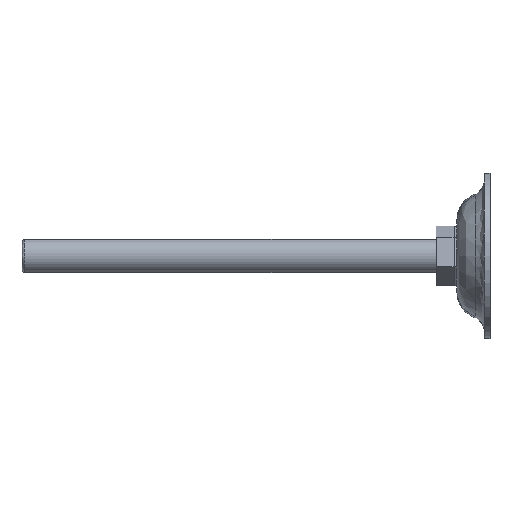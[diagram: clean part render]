
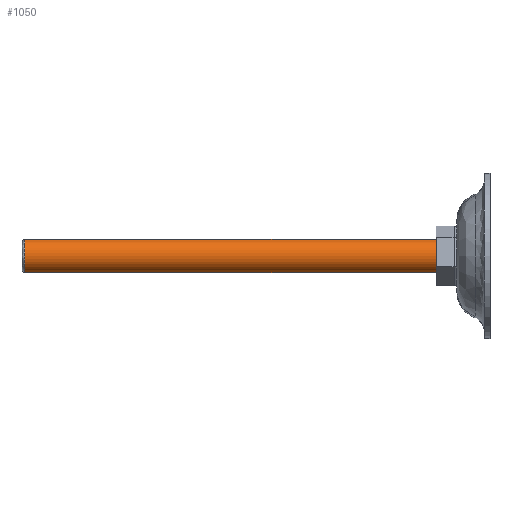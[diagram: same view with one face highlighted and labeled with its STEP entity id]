
A CAD part, left-side view. The second image highlights one B-rep face of the part: STEP entity #1050.
In plain terms, the highlighted cylindrical face has radius 6 mm (diameter 12 mm), a partial arc.
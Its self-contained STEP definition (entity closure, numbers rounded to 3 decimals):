
#15 = DIRECTION ( 'NONE',  ( 0., -1., 0. ) ) ;
#70 = CYLINDRICAL_SURFACE ( 'NONE', #1697, 6. ) ;
#99 = ORIENTED_EDGE ( 'NONE', *, *, #1617, .T. ) ;
#125 = VERTEX_POINT ( 'NONE', #380 ) ;
#126 = EDGE_CURVE ( 'NONE', #1104, #125, #1797, .T. ) ;
#204 = AXIS2_PLACEMENT_3D ( 'NONE', #1819, #1722, #1848 ) ;
#214 = ORIENTED_EDGE ( 'NONE', *, *, #229, .F. ) ;
#229 = EDGE_CURVE ( 'NONE', #2045, #1462, #404, .T. ) ;
#336 = CARTESIAN_POINT ( 'NONE',  ( -36.124, 164.085, -6. ) ) ;
#380 = CARTESIAN_POINT ( 'NONE',  ( -36.124, 14.085, -6. ) ) ;
#404 = LINE ( 'NONE', #1313, #1258 ) ;
#455 = DIRECTION ( 'NONE',  ( 0., -1., 0. ) ) ;
#570 = AXIS2_PLACEMENT_3D ( 'NONE', #1805, #2123, #2130 ) ;
#830 = DIRECTION ( 'NONE',  ( 0., 0., -1. ) ) ;
#891 = DIRECTION ( 'NONE',  ( 0., -1., 0. ) ) ;
#931 = CARTESIAN_POINT ( 'NONE',  ( -36.124, 163.085, -6. ) ) ;
#969 = FACE_OUTER_BOUND ( 'NONE', #1278, .T. ) ;
#1050 = ADVANCED_FACE ( 'NONE', ( #969 ), #70, .T. ) ;
#1104 = VERTEX_POINT ( 'NONE', #931 ) ;
#1155 = CIRCLE ( 'NONE', #570, 6. ) ;
#1258 = VECTOR ( 'NONE', #15, 1000. ) ;
#1278 = EDGE_LOOP ( 'NONE', ( #214, #1916, #1451, #99 ) ) ;
#1313 = CARTESIAN_POINT ( 'NONE',  ( -36.124, 164.085, 6. ) ) ;
#1369 = VECTOR ( 'NONE', #891, 1000. ) ;
#1437 = CARTESIAN_POINT ( 'NONE',  ( -36.124, 14.085, 6. ) ) ;
#1451 = ORIENTED_EDGE ( 'NONE', *, *, #126, .T. ) ;
#1462 = VERTEX_POINT ( 'NONE', #1437 ) ;
#1528 = CIRCLE ( 'NONE', #204, 6. ) ;
#1534 = CARTESIAN_POINT ( 'NONE',  ( -36.124, 164.085, 0. ) ) ;
#1557 = CARTESIAN_POINT ( 'NONE',  ( -36.124, 163.085, 6. ) ) ;
#1617 = EDGE_CURVE ( 'NONE', #125, #1462, #1155, .T. ) ;
#1697 = AXIS2_PLACEMENT_3D ( 'NONE', #1534, #455, #830 ) ;
#1722 = DIRECTION ( 'NONE',  ( 0., -1., 0. ) ) ;
#1797 = LINE ( 'NONE', #336, #1369 ) ;
#1799 = EDGE_CURVE ( 'NONE', #2045, #1104, #1528, .T. ) ;
#1805 = CARTESIAN_POINT ( 'NONE',  ( -36.124, 14.085, 0. ) ) ;
#1819 = CARTESIAN_POINT ( 'NONE',  ( -36.124, 163.085, 0. ) ) ;
#1848 = DIRECTION ( 'NONE',  ( 0., 0., -1. ) ) ;
#1916 = ORIENTED_EDGE ( 'NONE', *, *, #1799, .T. ) ;
#2045 = VERTEX_POINT ( 'NONE', #1557 ) ;
#2123 = DIRECTION ( 'NONE',  ( 0., 1., 0. ) ) ;
#2130 = DIRECTION ( 'NONE',  ( 0., 0., -1. ) ) ;
